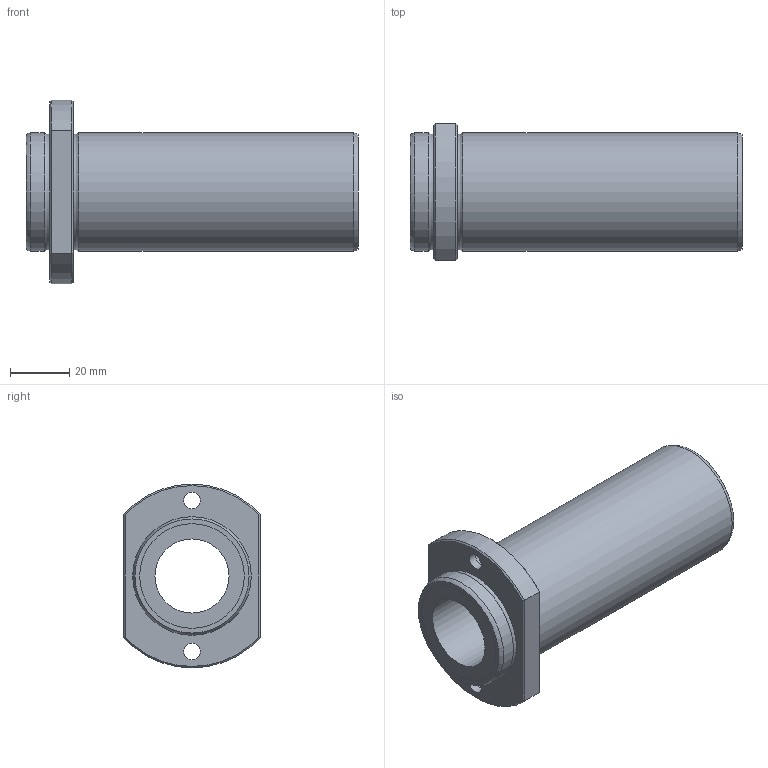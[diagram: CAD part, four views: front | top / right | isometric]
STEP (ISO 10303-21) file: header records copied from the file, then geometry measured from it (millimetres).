
FILE_DESCRIPTION((''),'2;1');
FILE_NAME('D:\製品 (図面)\カタログ用3D\リニアベアリング関連\STEP形式\LFDTB\LFDTB25.stp','2010-06-03T09:52:13',('Tsuchiya'),(''),'Autodesk Inventor 10','Autodesk Inventor 10','');
FILE_SCHEMA(('AUTOMOTIVE_DESIGN { 1 0 10303 214 1 1 1 1 }'));
Length unit declared in the file: millimetre
Products named in the file (1): LFDTB25
Bounding box: 112 x 46 x 62 mm (x, y, z)
Volume: 94978.8 mm3; surface area: 27685.1 mm2
Topology: 1 solids, 1 shells, 33 faces, 63 edges, 38 vertices
Faces by surface type: plane 12, bspline 8, cylinder 7, cone 4, torus 2
Full cylindrical faces by diameter (mm): 25 x1, 35.3 x2, 40 x2
Entity records: 977 total; most frequent: CARTESIAN_POINT 344, DIRECTION 124, ORIENTED_EDGE 100, EDGE_LOOP 58, AXIS2_PLACEMENT_3D 56, EDGE_CURVE 50, VERTEX_POINT 38, FACE_OUTER_BOUND 33
